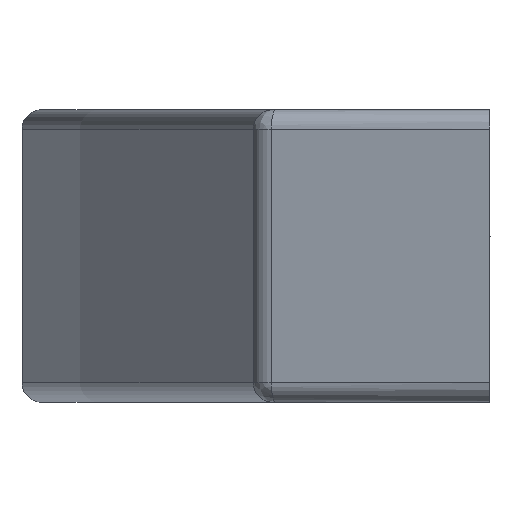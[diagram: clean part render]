
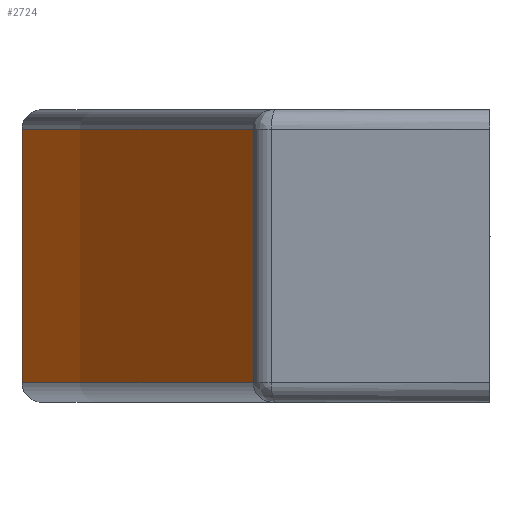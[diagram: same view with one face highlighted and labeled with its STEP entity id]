
A CAD part, left-side view. The second image highlights one B-rep face of the part: STEP entity #2724.
In plain terms, the highlighted cylindrical face has radius 732.089 mm (diameter 1464.18 mm), a partial arc.
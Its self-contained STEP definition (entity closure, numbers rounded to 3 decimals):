
#438=LINE('',#6582,#564);
#439=LINE('',#6586,#565);
#564=VECTOR('',#3594,10.);
#565=VECTOR('',#3599,10.);
#606=CYLINDRICAL_SURFACE('',#2989,732.089);
#769=FACE_OUTER_BOUND('',#946,.T.);
#946=EDGE_LOOP('',(#2476,#2477,#2478,#2479));
#1064=CIRCLE('',#2981,732.089);
#1068=CIRCLE('',#2990,732.089);
#1313=VERTEX_POINT('',#6551);
#1314=VERTEX_POINT('',#6555);
#1319=VERTEX_POINT('',#6581);
#1320=VERTEX_POINT('',#6585);
#1711=EDGE_CURVE('',#1313,#1314,#1064,.T.);
#1719=EDGE_CURVE('',#1319,#1314,#438,.T.);
#1721=EDGE_CURVE('',#1320,#1313,#439,.T.);
#1722=EDGE_CURVE('',#1319,#1320,#1068,.T.);
#2476=ORIENTED_EDGE('',*,*,#1711,.F.);
#2477=ORIENTED_EDGE('',*,*,#1721,.F.);
#2478=ORIENTED_EDGE('',*,*,#1722,.F.);
#2479=ORIENTED_EDGE('',*,*,#1719,.T.);
#2724=ADVANCED_FACE('',(#769),#606,.T.);
#2981=AXIS2_PLACEMENT_3D('',#6557,#3576,#3577);
#2989=AXIS2_PLACEMENT_3D('',#6584,#3597,#3598);
#2990=AXIS2_PLACEMENT_3D('',#6587,#3600,#3601);
#3576=DIRECTION('center_axis',(0.,0.,1.));
#3577=DIRECTION('ref_axis',(0.,1.,0.));
#3594=DIRECTION('',(0.,0.,1.));
#3597=DIRECTION('center_axis',(0.,0.,1.));
#3598=DIRECTION('ref_axis',(0.179,0.984,0.));
#3599=DIRECTION('',(0.,0.,1.));
#3600=DIRECTION('center_axis',(0.,0.,-1.));
#3601=DIRECTION('ref_axis',(0.,1.,0.));
#6551=CARTESIAN_POINT('',(131.214,12.145,14.));
#6555=CARTESIAN_POINT('',(-131.214,12.145,14.));
#6557=CARTESIAN_POINT('Origin',(0.,-708.089,
14.));
#6581=CARTESIAN_POINT('',(-131.214,12.145,1.));
#6582=CARTESIAN_POINT('',(-131.214,12.145,0.));
#6584=CARTESIAN_POINT('Origin',(0.,-708.089,
0.));
#6585=CARTESIAN_POINT('',(131.214,12.145,1.));
#6586=CARTESIAN_POINT('',(131.214,12.145,0.));
#6587=CARTESIAN_POINT('Origin',(0.,-708.089,
1.));
